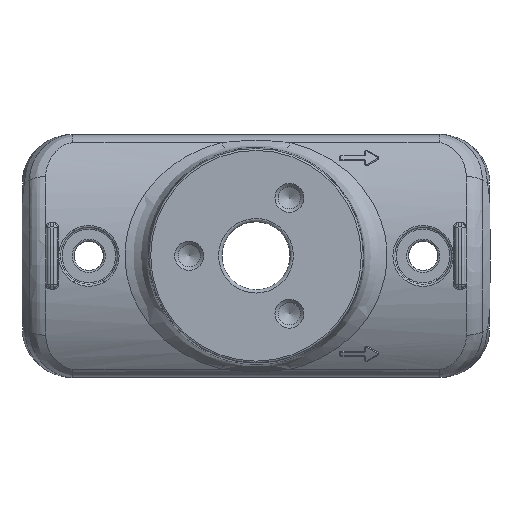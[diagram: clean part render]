
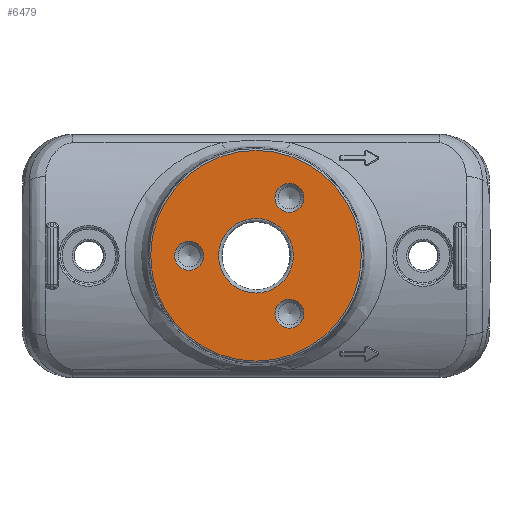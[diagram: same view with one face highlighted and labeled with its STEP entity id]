
A CAD part, top view. The second image highlights one B-rep face of the part: STEP entity #6479.
In plain terms, the highlighted planar face has unit normal (0, 0, 1).
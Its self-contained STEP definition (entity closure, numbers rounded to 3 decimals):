
#274=PLANE('',#7013);
#344=CIRCLE('',#6669,4.324);
#346=CIRCLE('',#6672,4.324);
#348=CIRCLE('',#6675,4.324);
#397=CIRCLE('',#6820,31.509);
#2451=ORIENTED_EDGE('',*,*,#3385,.F.);
#2452=ORIENTED_EDGE('',*,*,#3382,.T.);
#2453=ORIENTED_EDGE('',*,*,#3104,.T.);
#2454=ORIENTED_EDGE('',*,*,#3106,.T.);
#2455=ORIENTED_EDGE('',*,*,#3108,.T.);
#3104=EDGE_CURVE('',#3990,#3990,#344,.T.);
#3106=EDGE_CURVE('',#3992,#3992,#346,.T.);
#3108=EDGE_CURVE('',#3994,#3994,#348,.T.);
#3382=EDGE_CURVE('',#4188,#4188,#4703,.T.);
#3385=EDGE_CURVE('',#4191,#4191,#397,.T.);
#3990=VERTEX_POINT('',#9723);
#3992=VERTEX_POINT('',#9728);
#3994=VERTEX_POINT('',#9733);
#4188=VERTEX_POINT('',#14295);
#4191=VERTEX_POINT('',#14320);
#4703=B_SPLINE_CURVE_WITH_KNOTS('',3,(#14276,#14277,#14278,#14279,#14280,
#14281,#14282,#14283,#14284,#14285,#14286,#14287,#14288,#14289,#14290,#14291,
#14292,#14293,#14294),.UNSPECIFIED.,.T.,.F.,(1,1,1,1,1,1,1,1,1,1,1,1,1,
1,1,1,1,1,1,1,1,1,1),(-0.013,-0.009,-0.004,
0.,0.004,0.009,0.013,
0.018,0.022,0.026,0.031,
0.035,0.04,0.044,0.048,
0.053,0.057,0.061,0.066,
0.07,0.075,0.079,0.083),
 .UNSPECIFIED.);
#5407=EDGE_LOOP('',(#2451));
#5408=EDGE_LOOP('',(#2452));
#5409=EDGE_LOOP('',(#2453));
#5410=EDGE_LOOP('',(#2454));
#5411=EDGE_LOOP('',(#2455));
#5902=FACE_BOUND('',#5407,.T.);
#5903=FACE_BOUND('',#5408,.T.);
#5904=FACE_BOUND('',#5409,.T.);
#5905=FACE_BOUND('',#5410,.T.);
#5906=FACE_BOUND('',#5411,.T.);
#6479=ADVANCED_FACE('',(#5902,#5903,#5904,#5905,#5906),#274,.F.);
#6669=AXIS2_PLACEMENT_3D('',#9722,#7362,#7363);
#6672=AXIS2_PLACEMENT_3D('',#9727,#7368,#7369);
#6675=AXIS2_PLACEMENT_3D('',#9732,#7374,#7375);
#6820=AXIS2_PLACEMENT_3D('',#14319,#7742,#7743);
#7013=AXIS2_PLACEMENT_3D('',#18994,#8166,#8167);
#7362=DIRECTION('',(0.,0.,-1.));
#7363=DIRECTION('',(-1.,0.,0.));
#7368=DIRECTION('',(0.,0.,-1.));
#7369=DIRECTION('',(-1.,0.,0.));
#7374=DIRECTION('',(0.,0.,-1.));
#7375=DIRECTION('',(-1.,0.,0.));
#7742=DIRECTION('',(0.,0.,-1.));
#7743=DIRECTION('',(-1.,0.,0.));
#8166=DIRECTION('',(0.,0.,-1.));
#8167=DIRECTION('',(-1.,0.,0.));
#9722=CARTESIAN_POINT('',(10.,17.321,75.5));
#9723=CARTESIAN_POINT('',(5.676,17.321,75.5));
#9727=CARTESIAN_POINT('',(10.,-17.321,75.5));
#9728=CARTESIAN_POINT('',(5.676,-17.321,75.5));
#9732=CARTESIAN_POINT('',(-20.,0.,75.5));
#9733=CARTESIAN_POINT('',(-24.324,0.,75.5));
#14276=CARTESIAN_POINT('',(4.385,-10.561,75.5));
#14277=CARTESIAN_POINT('',(0.003,-11.432,75.5));
#14278=CARTESIAN_POINT('',(-4.396,-10.557,75.5));
#14279=CARTESIAN_POINT('',(-8.101,-8.085,75.5));
#14280=CARTESIAN_POINT('',(-10.589,-4.379,75.5));
#14281=CARTESIAN_POINT('',(-11.463,0.001,75.5));
#14282=CARTESIAN_POINT('',(-10.586,4.385,75.5));
#14283=CARTESIAN_POINT('',(-8.095,8.091,75.5));
#14284=CARTESIAN_POINT('',(-4.388,10.561,75.5));
#14285=CARTESIAN_POINT('',(0.012,11.432,75.5));
#14286=CARTESIAN_POINT('',(4.389,10.558,75.5));
#14287=CARTESIAN_POINT('',(8.103,8.084,75.5));
#14288=CARTESIAN_POINT('',(10.588,4.379,75.5));
#14289=CARTESIAN_POINT('',(11.463,0.004,75.5));
#14290=CARTESIAN_POINT('',(10.591,-4.373,75.5));
#14291=CARTESIAN_POINT('',(8.104,-8.085,75.5));
#14292=CARTESIAN_POINT('',(4.385,-10.561,75.5));
#14293=CARTESIAN_POINT('',(0.003,-11.432,75.5));
#14294=CARTESIAN_POINT('',(-4.396,-10.557,75.5));
#14295=CARTESIAN_POINT('',(0.,-11.141,75.5));
#14319=CARTESIAN_POINT('',(0.,0.,75.5));
#14320=CARTESIAN_POINT('',(-31.509,0.,75.5));
#18994=CARTESIAN_POINT('',(0.,0.,75.5));
